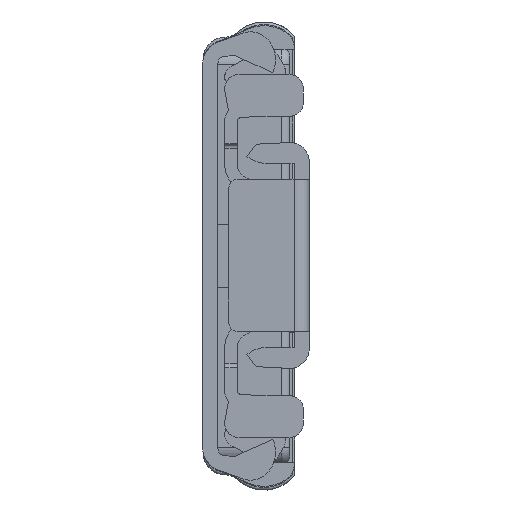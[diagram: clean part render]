
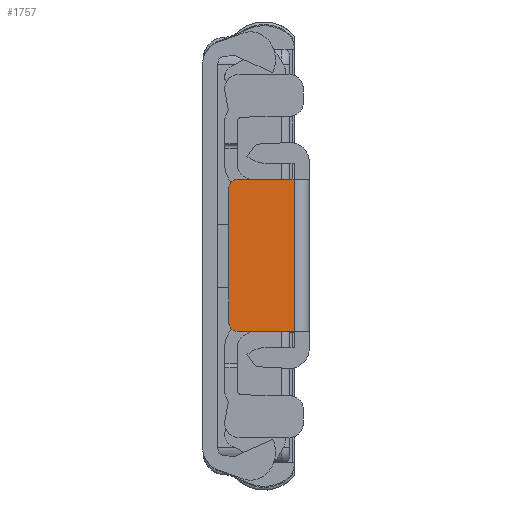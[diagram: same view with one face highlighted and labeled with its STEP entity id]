
A CAD part, front view. The second image highlights one B-rep face of the part: STEP entity #1757.
In plain terms, the highlighted planar face has unit normal (0, -1, 0).
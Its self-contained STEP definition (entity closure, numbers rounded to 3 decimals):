
#1757 = ADVANCED_FACE( '', ( #3512 ), #3513, .T. );
#3512 = FACE_OUTER_BOUND( '', #5348, .T. );
#3513 = PLANE( '', #5349 );
#5348 = EDGE_LOOP( '', ( #10291, #10292, #10293, #10294, #10295, #10296 ) );
#5349 = AXIS2_PLACEMENT_3D( '', #10297, #10298, #10299 );
#10291 = ORIENTED_EDGE( '', *, *, #11206, .T. );
#10292 = ORIENTED_EDGE( '', *, *, #12293, .T. );
#10293 = ORIENTED_EDGE( '', *, *, #11297, .T. );
#10294 = ORIENTED_EDGE( '', *, *, #11562, .T. );
#10295 = ORIENTED_EDGE( '', *, *, #12405, .T. );
#10296 = ORIENTED_EDGE( '', *, *, #12342, .T. );
#10297 = CARTESIAN_POINT( '', ( -9., -275.302, -2.366 ) );
#10298 = DIRECTION( '', ( 0., -1., 0. ) );
#10299 = DIRECTION( '', ( 0., 0., -1. ) );
#11206 = EDGE_CURVE( '', #13736, #13734, #13737, .T. );
#11297 = EDGE_CURVE( '', #13882, #13883, #13884, .T. );
#11562 = EDGE_CURVE( '', #13883, #14295, #14297, .T. );
#12293 = EDGE_CURVE( '', #13734, #13882, #15256, .T. );
#12342 = EDGE_CURVE( '', #15307, #13736, #15308, .T. );
#12405 = EDGE_CURVE( '', #14295, #15307, #15379, .T. );
#13734 = VERTEX_POINT( '', #17201 );
#13736 = VERTEX_POINT( '', #17204 );
#13737 = LINE( '', #17205, #17206 );
#13882 = VERTEX_POINT( '', #17397 );
#13883 = VERTEX_POINT( '', #17398 );
#13884 = LINE( '', #17399, #17400 );
#14295 = VERTEX_POINT( '', #17971 );
#14297 = LINE( '', #17973, #17974 );
#15256 = CIRCLE( '', #19341, 1. );
#15307 = VERTEX_POINT( '', #19404 );
#15308 = CIRCLE( '', #19405, 1. );
#15379 = LINE( '', #19507, #19508 );
#17201 = CARTESIAN_POINT( '', ( -8., -275.302, 5.8 ) );
#17204 = CARTESIAN_POINT( '', ( 8., -275.302, 5.8 ) );
#17205 = CARTESIAN_POINT( '', ( 9., -275.302, 5.8 ) );
#17206 = VECTOR( '', #20605, 1000. );
#17397 = CARTESIAN_POINT( '', ( -9., -275.302, 4.8 ) );
#17398 = CARTESIAN_POINT( '', ( -9., -275.302, -1.898 ) );
#17399 = CARTESIAN_POINT( '', ( -9., -275.302, -2.366 ) );
#17400 = VECTOR( '', #20724, 1000. );
#17971 = CARTESIAN_POINT( '', ( 9., -275.302, -1.898 ) );
#17973 = CARTESIAN_POINT( '', ( -9., -275.302, -1.898 ) );
#17974 = VECTOR( '', #21080, 1000. );
#19341 = AXIS2_PLACEMENT_3D( '', #21911, #21912, #21913 );
#19404 = CARTESIAN_POINT( '', ( 9., -275.302, 4.8 ) );
#19405 = AXIS2_PLACEMENT_3D( '', #21956, #21957, #21958 );
#19507 = CARTESIAN_POINT( '', ( 9., -275.302, -2.366 ) );
#19508 = VECTOR( '', #22025, 1000. );
#20605 = DIRECTION( '', ( -1., 0., 0. ) );
#20724 = DIRECTION( '', ( 0., 0., -1. ) );
#21080 = DIRECTION( '', ( 1., 0., 0. ) );
#21911 = CARTESIAN_POINT( '', ( -8., -275.302, 4.8 ) );
#21912 = DIRECTION( '', ( 0., -1., 0. ) );
#21913 = DIRECTION( '', ( 0., 0., -1. ) );
#21956 = CARTESIAN_POINT( '', ( 8., -275.302, 4.8 ) );
#21957 = DIRECTION( '', ( 0., -1., 0. ) );
#21958 = DIRECTION( '', ( 0., 0., -1. ) );
#22025 = DIRECTION( '', ( 0., 0., 1. ) );
